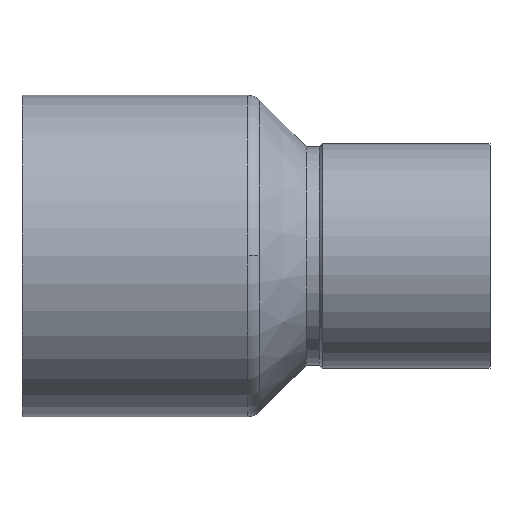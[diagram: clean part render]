
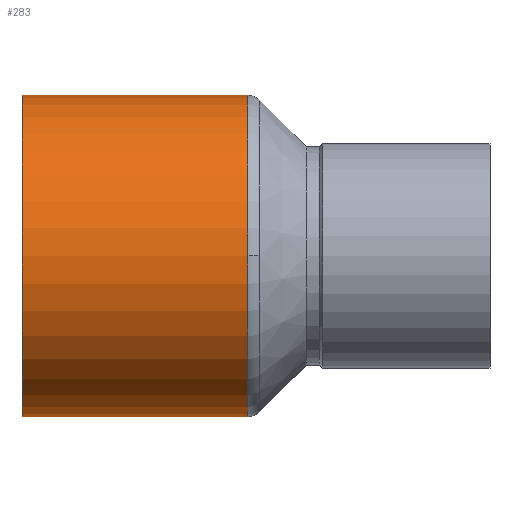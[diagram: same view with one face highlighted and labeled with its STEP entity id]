
A CAD part, top view. The second image highlights one B-rep face of the part: STEP entity #283.
In plain terms, the highlighted cylindrical face has radius 9.955 mm (diameter 19.91 mm), a partial arc.
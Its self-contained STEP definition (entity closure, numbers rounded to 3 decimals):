
#207=CARTESIAN_POINT('',(14.,9.955,0.0));
#208=VERTEX_POINT('',#207);
#216=CARTESIAN_POINT('',(14.,0.,9.955));
#217=VERTEX_POINT('',#216);
#218=CARTESIAN_POINT('',(14.,0.0,0.0));
#219=DIRECTION('',(1.0,0.0,0.0));
#220=DIRECTION('',(0.0,1.0,0.0));
#221=AXIS2_PLACEMENT_3D('',#218,#219,#220);
#222=CIRCLE('',#221,9.955);
#223=EDGE_CURVE('',#208,#217,#222,.T.);
#243=CARTESIAN_POINT('',(7.,0.0,0.0));
#244=DIRECTION('',(1.0,0.0,0.0));
#245=DIRECTION('',(0.0,1.0,0.0));
#246=AXIS2_PLACEMENT_3D('',#243,#244,#245);
#247=CYLINDRICAL_SURFACE('',#246,9.955);
#248=CARTESIAN_POINT('',(0.0,9.955,0.0));
#249=VERTEX_POINT('',#248);
#250=CARTESIAN_POINT('',(0.0,9.955,0.0));
#251=DIRECTION('',(1.0,0.0,0.0));
#252=VECTOR('',#251,14.);
#253=LINE('',#250,#252);
#254=EDGE_CURVE('',#249,#208,#253,.T.);
#255=ORIENTED_EDGE('',*,*,#254,.F.);
#256=CARTESIAN_POINT('',(0.0,-9.955,0.));
#257=VERTEX_POINT('',#256);
#258=CARTESIAN_POINT('',(0.0,0.0,0.0));
#259=DIRECTION('',(1.0,0.0,0.0));
#260=DIRECTION('',(0.0,1.0,0.0));
#261=AXIS2_PLACEMENT_3D('',#258,#259,#260);
#262=CIRCLE('',#261,9.955);
#263=EDGE_CURVE('',#249,#257,#262,.T.);
#264=ORIENTED_EDGE('',*,*,#263,.T.);
#265=CARTESIAN_POINT('',(14.,-9.955,0.));
#266=VERTEX_POINT('',#265);
#267=CARTESIAN_POINT('',(14.,-9.955,0.));
#268=DIRECTION('',(-1.0,0.0,0.0));
#269=VECTOR('',#268,14.);
#270=LINE('',#267,#269);
#271=EDGE_CURVE('',#266,#257,#270,.T.);
#272=ORIENTED_EDGE('',*,*,#271,.F.);
#273=CARTESIAN_POINT('',(14.,0.0,0.0));
#274=DIRECTION('',(1.0,0.0,0.0));
#275=DIRECTION('',(0.0,1.0,0.0));
#276=AXIS2_PLACEMENT_3D('',#273,#274,#275);
#277=CIRCLE('',#276,9.955);
#278=EDGE_CURVE('',#217,#266,#277,.T.);
#279=ORIENTED_EDGE('',*,*,#278,.F.);
#280=ORIENTED_EDGE('',*,*,#223,.F.);
#281=EDGE_LOOP('',(#255,#264,#272,#279,#280));
#282=FACE_OUTER_BOUND('',#281,.T.);
#283=ADVANCED_FACE('',(#282),#247,.T.);
